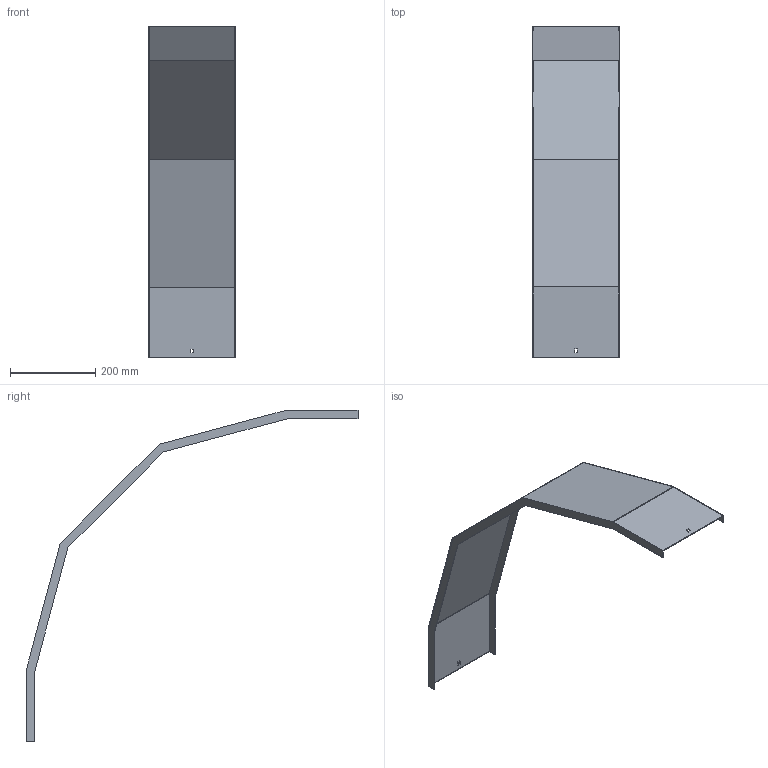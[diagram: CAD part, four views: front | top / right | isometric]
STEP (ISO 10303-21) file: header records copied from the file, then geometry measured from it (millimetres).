
FILE_DESCRIPTION (( 'STEP AP214' ), '1' );
FILE_NAME ('33N5J200.step', '2025-02-21T10:43:47', ( '' ), ( '' ), 'SwSTEP 2.0', 'SolidWorks 2023', '' );
FILE_SCHEMA (( 'AUTOMOTIVE_DESIGN' ));
Length unit declared in the file: millimetre
Products named in the file (1): 33N5J200
Bounding box: 203 x 779.96 x 779.96 mm (x, y, z)
Volume: 460734.3 mm3; surface area: 618885.1 mm2
Topology: 1 solids, 1 shells, 34 faces, 96 edges, 64 vertices
Faces by surface type: plane 34
Entity records: 1111 total; most frequent: CARTESIAN_POINT 195, ORIENTED_EDGE 192, DIRECTION 166, VECTOR 96, EDGE_CURVE 96, LINE 96, VERTEX_POINT 64, EDGE_LOOP 38
